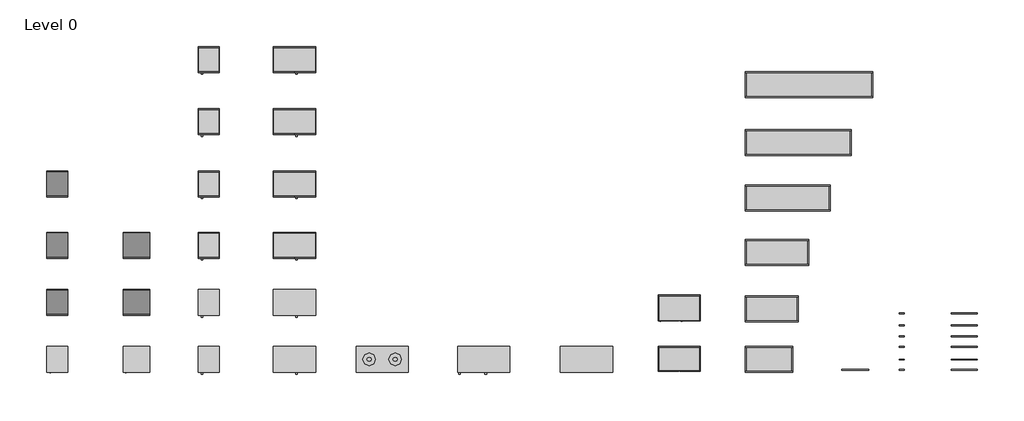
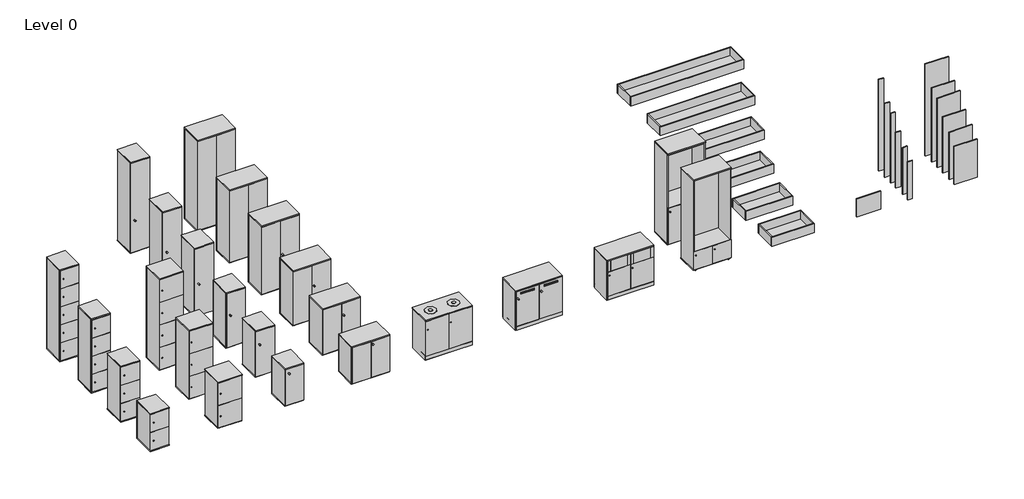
# One storey: 43 furniture elements.
"""IFC4 building model written with IfcOpenShell, lengths in millimetres."""

from ifc_helpers import new_model, si_unit, origin, place, context, project, spatial, transform, mapped, element, save
from components import furniture_baef7934, furniture_fa851ee8, furniture_483a1916, furniture_dd02c948, furniture_9273fa20, furniture_7051a054, furniture_c24b8cdc, furniture_dcb63cc3, furniture_86e59bc6, furniture_2f006f1c, furniture_6e16708e, furniture_532aaa69, furniture_6f07f4d4, apex_2_door_low_storage_recycling_module_7fa907ea, apex_2_door_low_storage_recycling_module_top_97303b22, grid_lockers_400_x_400_2_door_lockers_400mm_x_400mm_23a092ac, grid_lockers_400_x_400_3_door_lockers_400mm_x_400mm_c8f0e673, grid_lockers_400_x_400_4_door_lockers_400mm_x_400mm_3aeaf8d1, grid_lockers_400_x_400_5_door_lockers_400mm_x_400mm_98463abb, grid_lockers_500_x_500_2_door_lockers_500mm_x_500mm_4c120513, grid_lockers_500_x_500_3_door_lockers_500mm_x_500mm_36771719, grid_lockers_500_x_500_4_door_lockers_500mm_x_500mm_19c436bb, grid_lockers_alcove_grid_alcove_with_two_40_x_40_lockers_40229bef, grid_lockers_alcove_grid_alcove_with_two_80_x_40_lockers_ea2365ca, grid_lockers_end_cap_trim_end_cap_trim_1050_2acc9c86, grid_lockers_end_cap_trim_end_cap_trim_1250_7c0949b9, grid_lockers_end_cap_trim_end_cap_trim_1550_19a85bd9, grid_lockers_end_cap_trim_end_cap_trim_1650_aa5d95b0, grid_lockers_end_cap_trim_end_cap_trim_2050_ac4df2dc, grid_lockers_end_cap_trim_end_cap_trim_850_47c9209e, grid_lockers_planter_de8f3f7c, grid_lockers_planter_grid_planter_1000_ce209434, grid_lockers_planter_grid_planter_1200_5579d0e7, grid_lockers_planter_grid_planter_1600_f84f5458, grid_lockers_planter_grid_planter_2000_ba6c8cc2, grid_lockers_planter_grid_planter_800_faa34271, grid_lockers_top_cap_trim_top_cap_trim_b611090b, grid_lockers_wall_cap_trim_wall_cap_trim_1050_d14cf618, grid_lockers_wall_cap_trim_wall_cap_trim_1250_d23b244f, grid_lockers_wall_cap_trim_wall_cap_trim_1550_f75bf27f, grid_lockers_wall_cap_trim_wall_cap_trim_1650_6f5f1235, grid_lockers_wall_cap_trim_wall_cap_trim_2050_48bdf070, grid_lockers_wall_cap_trim_wall_cap_trim_850_96d26339

model = new_model("IFC4")

# Units and contexts
model_context = context("Model", 3, world=origin())
ifc_project = project(units=[si_unit("LENGTHUNIT", "METRE", prefix="MILLI")], contexts=[model_context])

# Site, building, storey
site = spatial("IfcSite", under=ifc_project)
building = spatial("IfcBuilding", under=site)
storey = spatial("IfcBuildingStorey", under=building, Name="Level 0", Elevation=0.0)

# Furniture
placement = place(None, origin())
furniture_shape = furniture_baef7934(model_context)
element("IfcFurniture", 1, ObjectType="Grid Lockers - 1 Door Complimentary : GRID SINGLE DOOR CABINET 400mm(w) x 490mm(d) x 858mm(h)", at=placement, inside=storey, context=model_context, shape_type="MappedRepresentation", body=[
    mapped(furniture_shape, transform((-7588.9781615, 202.0139297, 0.0), x_axis=(1.0, 0.0, 0.0), y_axis=(0.0, 1.0, 0.0), z_axis=(0.0, 0.0, 1.0))),
])
furniture_2_shape = furniture_fa851ee8(model_context)
element("IfcFurniture", 2, ObjectType="Grid Lockers - 1 Door Complimentary : GRID SINGLE DOOR CABINET 800mm(w) x 490mm(d) x 1256mm(h)", at=placement, inside=storey, context=model_context, shape_type="MappedRepresentation", body=[
    mapped(furniture_2_shape, transform((-7588.9781615, 2353.8182255, 0.0), x_axis=(1.0, 0.0, 0.0), y_axis=(0.0, 1.0, 0.0), z_axis=(0.0, 0.0, 1.0))),
])
furniture_3_shape = furniture_483a1916(model_context)
element("IfcFurniture", 3, ObjectType="Grid Lockers - 1 Door Complimentary : GRID SINGLE DOOR CABINET 800mm(w) x 490mm(d) x 1654mm(h)", at=placement, inside=storey, context=model_context, shape_type="MappedRepresentation", body=[
    mapped(furniture_3_shape, transform((-7588.9781615, 4684.0194094, 0.0), x_axis=(1.0, 0.0, 0.0), y_axis=(0.0, 1.0, 0.0), z_axis=(0.0, 0.0, 1.0))),
])
furniture_4_shape = furniture_dd02c948(model_context)
element("IfcFurniture", 4, ObjectType="Grid Lockers - 1 Door Complimentary : GRID SINGLE DOOR CABINET 800mm(w) x 490mm(d) x 2052mm(h)", at=placement, inside=storey, context=model_context, shape_type="MappedRepresentation", body=[
    mapped(furniture_4_shape, transform((-7588.9781615, 5857.1551779, 0.0), x_axis=(1.0, 0.0, 0.0), y_axis=(0.0, 1.0, 0.0), z_axis=(0.0, 0.0, 1.0))),
])
furniture_5_shape = furniture_9273fa20(model_context)
element("IfcFurniture", 5, ObjectType="Grid Lockers - 1 Door Complimentary : GRID SINGLE DOOR CABINET 800mm(w) x 490mm(d) x 1058mm(h)", at=placement, inside=storey, context=model_context, shape_type="MappedRepresentation", body=[
    mapped(furniture_5_shape, transform((-7588.9781615, 1277.104575, 0.0), x_axis=(1.0, 0.0, 0.0), y_axis=(0.0, 1.0, 0.0), z_axis=(0.0, 0.0, 1.0))),
])
furniture_6_shape = furniture_7051a054(model_context)
element("IfcFurniture", 6, ObjectType="Grid Lockers - 1 Door Complimentary : GRID SINGLE DOOR CABINET 800mm(w) x 490mm(d) x 1556mm(h)", at=placement, inside=storey, context=model_context, shape_type="MappedRepresentation", body=[
    mapped(furniture_6_shape, transform((-7588.9781615, 3510.883641, 0.0), x_axis=(1.0, 0.0, 0.0), y_axis=(0.0, 1.0, 0.0), z_axis=(0.0, 0.0, 1.0))),
])
furniture_7_shape = furniture_c24b8cdc(model_context)
element("IfcFurniture", 7, ObjectType="Grid Lockers - 2 Door Complimentary : GRID TWO DOOR CABINET 800mm(w) x 490mm(d) x 858mm(h)", at=placement, inside=storey, context=model_context, shape_type="MappedRepresentation", body=[
    mapped(furniture_7_shape, transform((-6174.7870981, 202.0139297, 0.0), x_axis=(1.0, 0.0, 0.0), y_axis=(0.0, 1.0, 0.0), z_axis=(0.0, 0.0, 1.0))),
])
furniture_8_shape = furniture_dcb63cc3(model_context)
element("IfcFurniture", 8, ObjectType="Grid Lockers - 2 Door Complimentary : GRID TWO DOOR CABINET 800mm(w) x 490mm(d) x 1256mm(h)", at=placement, inside=storey, context=model_context, shape_type="MappedRepresentation", body=[
    mapped(furniture_8_shape, transform((-6174.7870981, 2353.8182255, 0.0), x_axis=(1.0, 0.0, 0.0), y_axis=(0.0, 1.0, 0.0), z_axis=(0.0, 0.0, 1.0))),
])
furniture_9_shape = furniture_86e59bc6(model_context)
element("IfcFurniture", 9, ObjectType="Grid Lockers - 2 Door Complimentary : GRID TWO DOOR CABINET 800mm(w) x 490mm(d) x 1654mm(h)", at=placement, inside=storey, context=model_context, shape_type="MappedRepresentation", body=[
    mapped(furniture_9_shape, transform((-6174.7870981, 4684.0194094, 0.0), x_axis=(1.0, 0.0, 0.0), y_axis=(0.0, 1.0, 0.0), z_axis=(0.0, 0.0, 1.0))),
])
furniture_10_shape = furniture_2f006f1c(model_context)
element("IfcFurniture", 10, ObjectType="Grid Lockers - 2 Door Complimentary : GRID TWO DOOR CABINET 800mm(w) x 490mm(d) x 2052mm(h)", at=placement, inside=storey, context=model_context, shape_type="MappedRepresentation", body=[
    mapped(furniture_10_shape, transform((-6174.7870981, 5857.1551779, 0.0), x_axis=(1.0, 0.0, 0.0), y_axis=(0.0, 1.0, 0.0), z_axis=(0.0, 0.0, 1.0))),
])
furniture_11_shape = furniture_6e16708e(model_context)
element("IfcFurniture", 11, ObjectType="Grid Lockers - 2 Door Complimentary : GRID TWO DOOR CABINET 800mm(w) x 490mm(d) x 1058mm(h)", at=placement, inside=storey, context=model_context, shape_type="MappedRepresentation", body=[
    mapped(furniture_11_shape, transform((-6174.7870981, 1277.104575, 0.0), x_axis=(1.0, 0.0, 0.0), y_axis=(0.0, 1.0, 0.0), z_axis=(0.0, 0.0, 1.0))),
])
furniture_12_shape = furniture_532aaa69(model_context)
element("IfcFurniture", 12, ObjectType="Grid Lockers - 2 Door Complimentary : GRID TWO DOOR CABINET 800mm(w) x 490mm(d) x 1556mm(h)", at=placement, inside=storey, context=model_context, shape_type="MappedRepresentation", body=[
    mapped(furniture_12_shape, transform((-6174.7870981, 3510.883641, 0.0), x_axis=(1.0, 0.0, 0.0), y_axis=(0.0, 1.0, 0.0), z_axis=(0.0, 0.0, 1.0))),
])
furniture_13_shape = furniture_6f07f4d4(model_context)
element("IfcFurniture", 13, ObjectType="Apex - 2 DOOR - LOW STORAGE CONFIDENTIAL WASTE : APEX-SW-18-CONF2 Confidential waste 500mm(w) x 490mm(d) x 900mm(h)", at=placement, inside=storey, context=model_context, shape_type="MappedRepresentation", body=[
    mapped(furniture_13_shape, transform((-2701.8320269, 202.0139297, 0.0), x_axis=(1.0, 0.0, 0.0), y_axis=(0.0, 1.0, 0.0), z_axis=(0.0, 0.0, 1.0))),
])
apex_2_door_low_storage_recycling_module_shape = apex_2_door_low_storage_recycling_module_7fa907ea(model_context)
element("IfcFurniture", 14, ObjectType="Apex - 2 DOOR - LOW STORAGE RECYCLING MODULE : APEX-SW-18-RCFP2 500mm(w) x 490mm(d) x 1028mm(h)", at=placement, inside=storey, context=model_context, shape_type="MappedRepresentation", body=[
    mapped(apex_2_door_low_storage_recycling_module_shape, transform((-764.8268439, 202.0139297, 0.0), x_axis=(1.0, 0.0, 0.0), y_axis=(0.0, 1.0, 0.0), z_axis=(0.0, 0.0, 1.0))),
])
apex_2_door_low_storage_recycling_module_top_shape = apex_2_door_low_storage_recycling_module_top_97303b22(model_context)
element("IfcFurniture", 15, ObjectType="Apex - 2 DOOR - LOW STORAGE RECYCLING MODULE TOP : APEX-SW-18-RCTP2 500mm(w) x 490mm(d) x 1028mm(h)", at=placement, inside=storey, context=model_context, shape_type="MappedRepresentation", body=[
    mapped(apex_2_door_low_storage_recycling_module_top_shape, transform((-4610.626151, 202.0139297, 0.0), x_axis=(1.0, 0.0, 0.0), y_axis=(0.0, 1.0, 0.0), z_axis=(0.0, 0.0, 1.0))),
])
grid_lockers_400_x_400_2_door_lockers_400mm_x_400mm_shape = grid_lockers_400_x_400_2_door_lockers_400mm_x_400mm_23a092ac(model_context)
element("IfcFurniture", 16, ObjectType="Grid Lockers - 400 x 400 : 2 Door Lockers 400mm x 400mm", at=placement, inside=storey, context=model_context, shape_type="MappedRepresentation", body=[
    mapped(grid_lockers_400_x_400_2_door_lockers_400mm_x_400mm_shape, transform((-10445.4631171, 202.0139297, 0.0), x_axis=(1.0, 0.0, 0.0), y_axis=(0.0, 1.0, 0.0), z_axis=(0.0, 0.0, 1.0))),
])
grid_lockers_400_x_400_3_door_lockers_400mm_x_400mm_shape = grid_lockers_400_x_400_3_door_lockers_400mm_x_400mm_c8f0e673(model_context)
element("IfcFurniture", 17, ObjectType="Grid Lockers - 400 x 400 : 3 Door Lockers 400mm x 400mm", at=placement, inside=storey, context=model_context, shape_type="MappedRepresentation", body=[
    mapped(grid_lockers_400_x_400_3_door_lockers_400mm_x_400mm_shape, transform((-10445.4631171, 1277.104575, 0.0), x_axis=(1.0, 0.0, 0.0), y_axis=(0.0, 1.0, 0.0), z_axis=(0.0, 0.0, 1.0))),
])
grid_lockers_400_x_400_4_door_lockers_400mm_x_400mm_shape = grid_lockers_400_x_400_4_door_lockers_400mm_x_400mm_3aeaf8d1(model_context)
element("IfcFurniture", 18, ObjectType="Grid Lockers - 400 x 400 : 4 Door Lockers 400mm x 400mm", at=placement, inside=storey, context=model_context, shape_type="MappedRepresentation", body=[
    mapped(grid_lockers_400_x_400_4_door_lockers_400mm_x_400mm_shape, transform((-10445.4631171, 2353.8182255, 0.0), x_axis=(1.0, 0.0, 0.0), y_axis=(0.0, 1.0, 0.0), z_axis=(0.0, 0.0, 1.0))),
])
grid_lockers_400_x_400_5_door_lockers_400mm_x_400mm_shape = grid_lockers_400_x_400_5_door_lockers_400mm_x_400mm_98463abb(model_context)
element("IfcFurniture", 19, ObjectType="Grid Lockers - 400 x 400 : 5 Door Lockers 400mm x 400mm", at=placement, inside=storey, context=model_context, shape_type="MappedRepresentation", body=[
    mapped(grid_lockers_400_x_400_5_door_lockers_400mm_x_400mm_shape, transform((-10445.4631171, 3510.883641, 0.0), x_axis=(1.0, 0.0, 0.0), y_axis=(0.0, 1.0, 0.0), z_axis=(0.0, 0.0, 1.0))),
])
grid_lockers_500_x_500_2_door_lockers_500mm_x_500mm_shape = grid_lockers_500_x_500_2_door_lockers_500mm_x_500mm_4c120513(model_context)
element("IfcFurniture", 20, ObjectType="Grid Lockers - 500 x 500 : 2 Door Lockers 500mm x 500mm", at=placement, inside=storey, context=model_context, shape_type="MappedRepresentation", body=[
    mapped(grid_lockers_500_x_500_2_door_lockers_500mm_x_500mm_shape, transform((-9002.1139299, 202.0139297, 0.0), x_axis=(1.0, 0.0, 0.0), y_axis=(0.0, 1.0, 0.0), z_axis=(0.0, 0.0, 1.0))),
])
grid_lockers_500_x_500_3_door_lockers_500mm_x_500mm_shape = grid_lockers_500_x_500_3_door_lockers_500mm_x_500mm_36771719(model_context)
element("IfcFurniture", 21, ObjectType="Grid Lockers - 500 x 500 : 3 Door Lockers 500mm x 500mm", at=placement, inside=storey, context=model_context, shape_type="MappedRepresentation", body=[
    mapped(grid_lockers_500_x_500_3_door_lockers_500mm_x_500mm_shape, transform((-9002.1139299, 1277.104575, 0.0), x_axis=(1.0, 0.0, 0.0), y_axis=(0.0, 1.0, 0.0), z_axis=(0.0, 0.0, 1.0))),
])
grid_lockers_500_x_500_4_door_lockers_500mm_x_500mm_shape = grid_lockers_500_x_500_4_door_lockers_500mm_x_500mm_19c436bb(model_context)
element("IfcFurniture", 22, ObjectType="Grid Lockers - 500 x 500 : 4 Door Lockers 500mm x 500mm", at=placement, inside=storey, context=model_context, shape_type="MappedRepresentation", body=[
    mapped(grid_lockers_500_x_500_4_door_lockers_500mm_x_500mm_shape, transform((-9002.1139299, 2353.8182255, 0.0), x_axis=(1.0, 0.0, 0.0), y_axis=(0.0, 1.0, 0.0), z_axis=(0.0, 0.0, 1.0))),
])
grid_lockers_alcove_grid_alcove_with_two_40_x_40_lockers_shape = grid_lockers_alcove_grid_alcove_with_two_40_x_40_lockers_40229bef(model_context)
element("IfcFurniture", 23, ObjectType="Grid Lockers - ALCOVE : GRID ALCOVE WITH TWO 40 X 40 LOCKERS", at=placement, inside=storey, context=model_context, shape_type="MappedRepresentation", body=[
    mapped(grid_lockers_alcove_grid_alcove_with_two_40_x_40_lockers_shape, transform((1072.8818691, 202.0139297, 0.0), x_axis=(1.0, 0.0, 0.0), y_axis=(0.0, 1.0, 0.0), z_axis=(0.0, 0.0, 1.0))),
])
grid_lockers_alcove_grid_alcove_with_two_80_x_40_lockers_shape = grid_lockers_alcove_grid_alcove_with_two_80_x_40_lockers_ea2365ca(model_context)
element("IfcFurniture", 24, ObjectType="Grid Lockers - ALCOVE : GRID ALCOVE WITH TWO 80 X 40 LOCKERS", at=placement, inside=storey, context=model_context, shape_type="MappedRepresentation", body=[
    mapped(grid_lockers_alcove_grid_alcove_with_two_80_x_40_lockers_shape, transform((1072.8818691, 1169.9488109, 0.0), x_axis=(1.0, 0.0, 0.0), y_axis=(0.0, 1.0, 0.0), z_axis=(0.0, 0.0, 1.0))),
])
grid_lockers_end_cap_trim_end_cap_trim_1050_shape = grid_lockers_end_cap_trim_end_cap_trim_1050_2acc9c86(model_context)
element("IfcFurniture", 25, ObjectType="Grid Lockers - END CAP TRIM : END CAP TRIM 1050", at=placement, inside=storey, context=model_context, shape_type="MappedRepresentation", body=[
    mapped(grid_lockers_end_cap_trim_end_cap_trim_1050_shape, transform((6600.5774223, -38.3032574, 0.0), x_axis=(1.0, 0.0, 0.0), y_axis=(0.0, 1.0, 0.0), z_axis=(0.0, 0.0, 1.0))),
])
grid_lockers_end_cap_trim_end_cap_trim_1250_shape = grid_lockers_end_cap_trim_end_cap_trim_1250_7c0949b9(model_context)
element("IfcFurniture", 26, ObjectType="Grid Lockers - END CAP TRIM : END CAP TRIM 1250", at=placement, inside=storey, context=model_context, shape_type="MappedRepresentation", body=[
    mapped(grid_lockers_end_cap_trim_end_cap_trim_1250_shape, transform((6600.5774223, 202.0139297, 0.0), x_axis=(1.0, 0.0, 0.0), y_axis=(0.0, 1.0, 0.0), z_axis=(0.0, 0.0, 1.0))),
])
grid_lockers_end_cap_trim_end_cap_trim_1550_shape = grid_lockers_end_cap_trim_end_cap_trim_1550_19a85bd9(model_context)
element("IfcFurniture", 27, ObjectType="Grid Lockers - END CAP TRIM : END CAP TRIM 1550", at=placement, inside=storey, context=model_context, shape_type="MappedRepresentation", body=[
    mapped(grid_lockers_end_cap_trim_end_cap_trim_1550_shape, transform((6600.5774223, 395.5215058, 0.0), x_axis=(1.0, 0.0, 0.0), y_axis=(0.0, 1.0, 0.0), z_axis=(0.0, 0.0, 1.0))),
])
grid_lockers_end_cap_trim_end_cap_trim_1650_shape = grid_lockers_end_cap_trim_end_cap_trim_1650_aa5d95b0(model_context)
element("IfcFurniture", 28, ObjectType="Grid Lockers - END CAP TRIM : END CAP TRIM 1650", at=placement, inside=storey, context=model_context, shape_type="MappedRepresentation", body=[
    mapped(grid_lockers_end_cap_trim_end_cap_trim_1650_shape, transform((6600.5774223, 605.3533762, 0.0), x_axis=(1.0, 0.0, 0.0), y_axis=(0.0, 1.0, 0.0), z_axis=(0.0, 0.0, 1.0))),
])
grid_lockers_end_cap_trim_end_cap_trim_2050_shape = grid_lockers_end_cap_trim_end_cap_trim_2050_ac4df2dc(model_context)
element("IfcFurniture", 29, ObjectType="Grid Lockers - END CAP TRIM : END CAP TRIM 2050", at=placement, inside=storey, context=model_context, shape_type="MappedRepresentation", body=[
    mapped(grid_lockers_end_cap_trim_end_cap_trim_2050_shape, transform((6600.5774223, 829.8192321, 0.0), x_axis=(1.0, 0.0, 0.0), y_axis=(0.0, 1.0, 0.0), z_axis=(0.0, 0.0, 1.0))),
])
grid_lockers_end_cap_trim_end_cap_trim_850_shape = grid_lockers_end_cap_trim_end_cap_trim_850_47c9209e(model_context)
element("IfcFurniture", 30, ObjectType="Grid Lockers - END CAP TRIM : END CAP TRIM 850", at=placement, inside=storey, context=model_context, shape_type="MappedRepresentation", body=[
    mapped(grid_lockers_end_cap_trim_end_cap_trim_850_shape, transform((6600.5774223, -230.3109587, 0.0), x_axis=(1.0, 0.0, 0.0), y_axis=(0.0, 1.0, 0.0), z_axis=(0.0, 0.0, 1.0))),
])
grid_lockers_planter_shape = grid_lockers_planter_de8f3f7c(model_context)
element("IfcFurniture", 31, ObjectType="Grid Lockers - Planter : Grid -  Planter 2400", at=placement, inside=storey, context=model_context, shape_type="MappedRepresentation", body=[
    mapped(grid_lockers_planter_shape, transform((2713.8166991, 5381.0936735, 0.0), x_axis=(1.0, 0.0, 0.0), y_axis=(0.0, 1.0, 0.0), z_axis=(0.0, 0.0, 1.0))),
])
grid_lockers_planter_grid_planter_1000_shape = grid_lockers_planter_grid_planter_1000_ce209434(model_context)
element("IfcFurniture", 32, ObjectType="Grid Lockers - Planter : Grid - Planter 1000", at=placement, inside=storey, context=model_context, shape_type="MappedRepresentation", body=[
    mapped(grid_lockers_planter_grid_planter_1000_shape, transform((2713.8166991, 1157.104575, 0.0), x_axis=(1.0, 0.0, 0.0), y_axis=(0.0, 1.0, 0.0), z_axis=(0.0, 0.0, 1.0))),
])
grid_lockers_planter_grid_planter_1200_shape = grid_lockers_planter_grid_planter_1200_5579d0e7(model_context)
element("IfcFurniture", 33, ObjectType="Grid Lockers - Planter : Grid - Planter 1200", at=placement, inside=storey, context=model_context, shape_type="MappedRepresentation", body=[
    mapped(grid_lockers_planter_grid_planter_1200_shape, transform((2713.8166991, 2216.0086286, 0.0), x_axis=(1.0, 0.0, 0.0), y_axis=(0.0, 1.0, 0.0), z_axis=(0.0, 0.0, 1.0))),
])
grid_lockers_planter_grid_planter_1600_shape = grid_lockers_planter_grid_planter_1600_f84f5458(model_context)
element("IfcFurniture", 34, ObjectType="Grid Lockers - Planter : Grid - Planter 1600", at=placement, inside=storey, context=model_context, shape_type="MappedRepresentation", body=[
    mapped(grid_lockers_planter_grid_planter_1600_shape, transform((2713.8166991, 3244.5431887, 0.0), x_axis=(1.0, 0.0, 0.0), y_axis=(0.0, 1.0, 0.0), z_axis=(0.0, 0.0, 1.0))),
])
grid_lockers_planter_grid_planter_2000_shape = grid_lockers_planter_grid_planter_2000_ba6c8cc2(model_context)
element("IfcFurniture", 35, ObjectType="Grid Lockers - Planter : Grid - Planter 2000", at=placement, inside=storey, context=model_context, shape_type="MappedRepresentation", body=[
    mapped(grid_lockers_planter_grid_planter_2000_shape, transform((2713.8166991, 4287.1363665, 0.0), x_axis=(1.0, 0.0, 0.0), y_axis=(0.0, 1.0, 0.0), z_axis=(0.0, 0.0, 1.0))),
])
grid_lockers_planter_grid_planter_800_shape = grid_lockers_planter_grid_planter_800_faa34271(model_context)
element("IfcFurniture", 36, ObjectType="Grid Lockers - Planter : Grid - Planter 800", at=placement, inside=storey, context=model_context, shape_type="MappedRepresentation", body=[
    mapped(grid_lockers_planter_grid_planter_800_shape, transform((2713.8166991, 202.0139297, 0.0), x_axis=(1.0, 0.0, 0.0), y_axis=(0.0, 1.0, 0.0), z_axis=(0.0, 0.0, 1.0))),
])
grid_lockers_top_cap_trim_top_cap_trim_shape = grid_lockers_top_cap_trim_top_cap_trim_b611090b(model_context)
element("IfcFurniture", 37, ObjectType="Grid Lockers - TOP CAP TRIM : TOP CAP TRIM", at=placement, inside=storey, context=model_context, shape_type="MappedRepresentation", body=[
    mapped(grid_lockers_top_cap_trim_top_cap_trim_shape, transform((4537.9771939, -230.3109587, 0.0), x_axis=(1.0, 0.0, 0.0), y_axis=(0.0, 1.0, 0.0), z_axis=(0.0, 0.0, 1.0))),
])
grid_lockers_wall_cap_trim_wall_cap_trim_1050_shape = grid_lockers_wall_cap_trim_wall_cap_trim_1050_d14cf618(model_context)
element("IfcFurniture", 38, ObjectType="Grid Lockers - WALL CAP TRIM : WALL CAP TRIM 1050", at=placement, inside=storey, context=model_context, shape_type="MappedRepresentation", body=[
    mapped(grid_lockers_wall_cap_trim_wall_cap_trim_1050_shape, transform((5615.4946782, -38.3032574, 0.0), x_axis=(1.0, 0.0, 0.0), y_axis=(0.0, 1.0, 0.0), z_axis=(0.0, 0.0, 1.0))),
])
grid_lockers_wall_cap_trim_wall_cap_trim_1250_shape = grid_lockers_wall_cap_trim_wall_cap_trim_1250_d23b244f(model_context)
element("IfcFurniture", 39, ObjectType="Grid Lockers - WALL CAP TRIM : WALL CAP TRIM 1250", at=placement, inside=storey, context=model_context, shape_type="MappedRepresentation", body=[
    mapped(grid_lockers_wall_cap_trim_wall_cap_trim_1250_shape, transform((5615.4946782, 202.0139297, 0.0), x_axis=(1.0, 0.0, 0.0), y_axis=(0.0, 1.0, 0.0), z_axis=(0.0, 0.0, 1.0))),
])
grid_lockers_wall_cap_trim_wall_cap_trim_1550_shape = grid_lockers_wall_cap_trim_wall_cap_trim_1550_f75bf27f(model_context)
element("IfcFurniture", 40, ObjectType="Grid Lockers - WALL CAP TRIM : WALL CAP TRIM 1550", at=placement, inside=storey, context=model_context, shape_type="MappedRepresentation", body=[
    mapped(grid_lockers_wall_cap_trim_wall_cap_trim_1550_shape, transform((5615.4946782, 395.5215058, 0.0), x_axis=(1.0, 0.0, 0.0), y_axis=(0.0, 1.0, 0.0), z_axis=(0.0, 0.0, 1.0))),
])
grid_lockers_wall_cap_trim_wall_cap_trim_1650_shape = grid_lockers_wall_cap_trim_wall_cap_trim_1650_6f5f1235(model_context)
element("IfcFurniture", 41, ObjectType="Grid Lockers - WALL CAP TRIM : WALL CAP TRIM 1650", at=placement, inside=storey, context=model_context, shape_type="MappedRepresentation", body=[
    mapped(grid_lockers_wall_cap_trim_wall_cap_trim_1650_shape, transform((5615.4946782, 605.3533762, 0.0), x_axis=(1.0, 0.0, 0.0), y_axis=(0.0, 1.0, 0.0), z_axis=(0.0, 0.0, 1.0))),
])
grid_lockers_wall_cap_trim_wall_cap_trim_2050_shape = grid_lockers_wall_cap_trim_wall_cap_trim_2050_48bdf070(model_context)
element("IfcFurniture", 42, ObjectType="Grid Lockers - WALL CAP TRIM : WALL CAP TRIM 2050", at=placement, inside=storey, context=model_context, shape_type="MappedRepresentation", body=[
    mapped(grid_lockers_wall_cap_trim_wall_cap_trim_2050_shape, transform((5615.4946782, 829.8192321, 0.0), x_axis=(1.0, 0.0, 0.0), y_axis=(0.0, 1.0, 0.0), z_axis=(0.0, 0.0, 1.0))),
])
grid_lockers_wall_cap_trim_wall_cap_trim_850_shape = grid_lockers_wall_cap_trim_wall_cap_trim_850_96d26339(model_context)
element("IfcFurniture", 43, ObjectType="Grid Lockers - WALL CAP TRIM : WALL CAP TRIM 850", at=placement, inside=storey, context=model_context, shape_type="MappedRepresentation", body=[
    mapped(grid_lockers_wall_cap_trim_wall_cap_trim_850_shape, transform((5615.4946782, -230.3109587, 0.0), x_axis=(1.0, 0.0, 0.0), y_axis=(0.0, 1.0, 0.0), z_axis=(0.0, 0.0, 1.0))),
])

save(model, "model.ifc")
